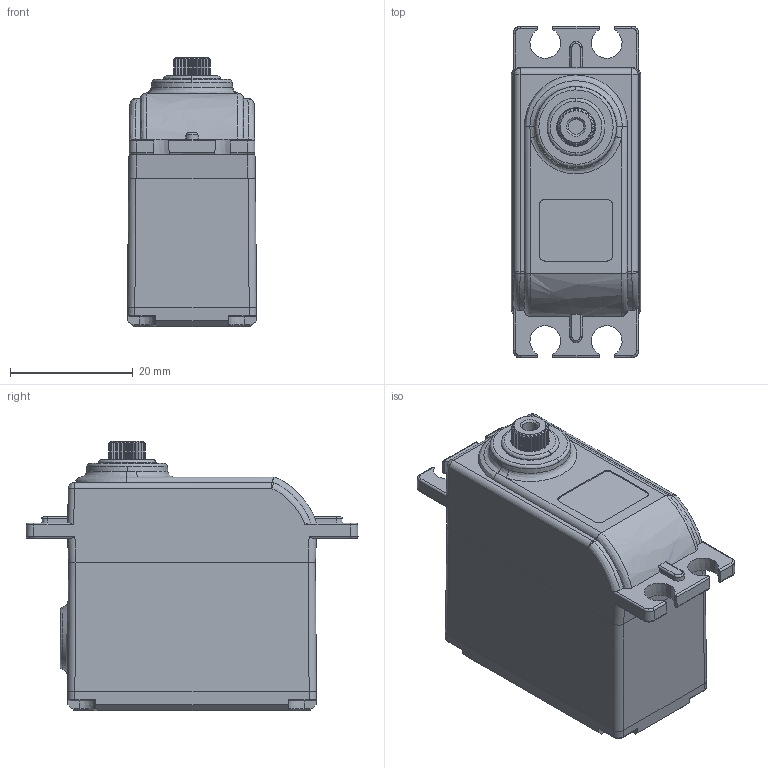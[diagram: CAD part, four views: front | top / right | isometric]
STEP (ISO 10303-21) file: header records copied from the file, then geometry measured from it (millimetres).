
FILE_DESCRIPTION (( 'STEP AP214' ), '1' );
FILE_NAME ('BLS661_DM_2020.STEP', '2023-11-03T08:11:36', ( '' ), ( '' ), 'SwSTEP 2.0', 'SolidWorks 2016', '' );
FILE_SCHEMA (( 'AUTOMOTIVE_DESIGN' ));
Length unit declared in the file: millimetre
Products named in the file (1): BLS661_DM_2020
Bounding box: 21 x 54 x 43.8 mm (x, y, z)
Volume: 12285.1 mm3; surface area: 17390.8 mm2
Topology: 5 solids, 5 shells, 821 faces, 2224 edges, 1456 vertices
Faces by surface type: plane 290, cylinder 226, cone 185, bspline 120
Entity records: 38585 total; most frequent: CARTESIAN_POINT 17263, ORIENTED_EDGE 4444, DIRECTION 3636, EDGE_CURVE 2222, VERTEX_POINT 1455, AXIS2_PLACEMENT_3D 1295, VECTOR 1046, LINE 1046
